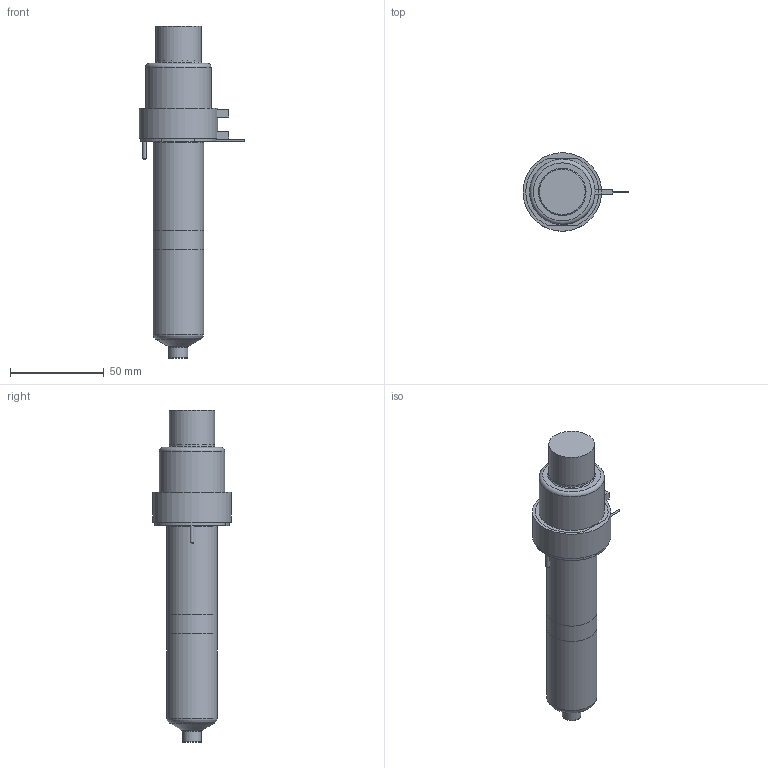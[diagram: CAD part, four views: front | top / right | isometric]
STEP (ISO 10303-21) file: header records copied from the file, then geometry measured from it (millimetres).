
FILE_DESCRIPTION(/* description */ (''),/* implementation_level */ '2;1');
FILE_NAME(/* name */ 'SXTBE-SXIBE-SXOBE13115_200C_a',/* time_stamp */ '2016-03-03T09:30:18+13:00',/* author */ (''),/* organization */ (''),/* preprocessor_version */ 'ST-DEVELOPER v9',/* originating_system */ 'UGS - NX 4.0',/* authorisation */ '');
FILE_SCHEMA (('CONFIG_CONTROL_DESIGN'));
Length unit declared in the file: millimetre
Products named in the file (1): matt0BBCfgkb
Bounding box: 56.65 x 42 x 177.5 mm (x, y, z)
Volume: 206150.4 mm3; surface area: 36510.9 mm2
Topology: 7 solids, 7 shells, 92 faces, 180 edges, 116 vertices
Faces by surface type: plane 45, cylinder 28, torus 9, cone 9, bspline 1
Full cylindrical faces by diameter (mm): 0.9 x1, 1 x3, 2 x2, 6 x1, 9.61 x1, 10.01 x2, 12.6 x1, 22.2 x1, 24 x1, 24.4 x1, 27 x2, 31.8 x1, 35 x1, 40 x1, 42 x1
Entity records: 2250 total; most frequent: CARTESIAN_POINT 438, DIRECTION 382, ORIENTED_EDGE 268, AXIS2_PLACEMENT_3D 166, EDGE_LOOP 142, EDGE_CURVE 134, VERTEX_POINT 107, ADVANCED_FACE 92
